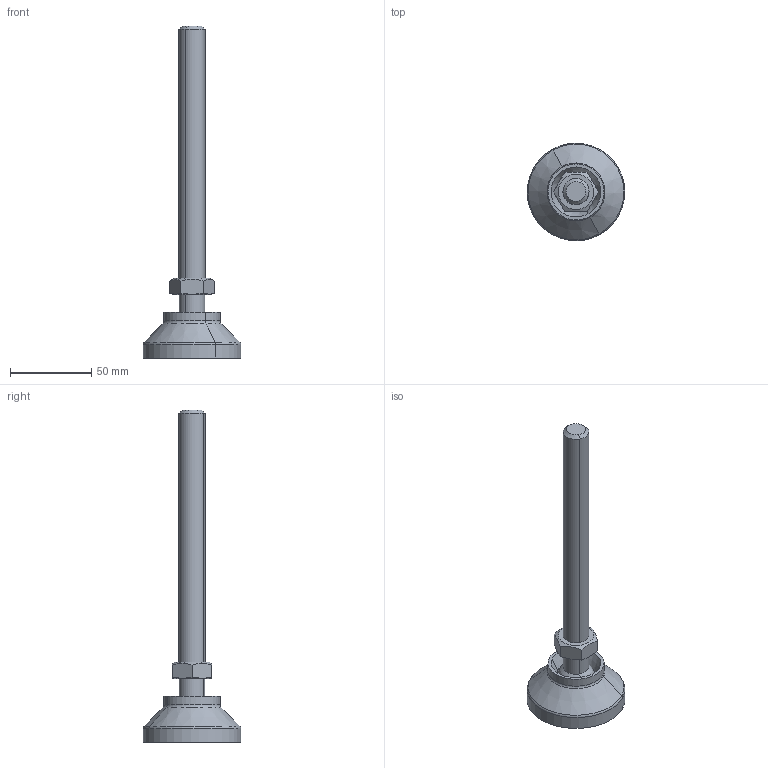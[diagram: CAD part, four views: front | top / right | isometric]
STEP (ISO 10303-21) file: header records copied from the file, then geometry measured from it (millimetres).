
FILE_DESCRIPTION(('CATIA V5 STEP Exchange'),'2;1');
FILE_NAME('C:\Users\ALI OZGUN\Desktop\alhan\ARTICULATED_FEET-PABUCLAR\501601621.stp','2017-09-21T11:53:42+00:00',('none'),('none'),'CATIA Version 5 Release 21 GA (IN-10)','CATIA V5 STEP AP203','none');
FILE_SCHEMA(('CONFIG_CONTROL_DESIGN'));
Length unit declared in the file: millimetre
Products named in the file (1): 501601621
Bounding box: 59.98 x 59.98 x 204 mm (x, y, z)
Volume: 73603.8 mm3; surface area: 25428 mm2
Topology: 2 solids, 2 shells, 96 faces, 264 edges, 176 vertices
Faces by surface type: plane 44, cylinder 22, cone 20, sphere 6, torus 4
Entity records: 3114 total; most frequent: CARTESIAN_POINT 983, ORIENTED_EDGE 520, DIRECTION 280, EDGE_CURVE 260, VERTEX_POINT 176, AXIS2_PLACEMENT_3D 147, EDGE_LOOP 104, CIRCLE 100
